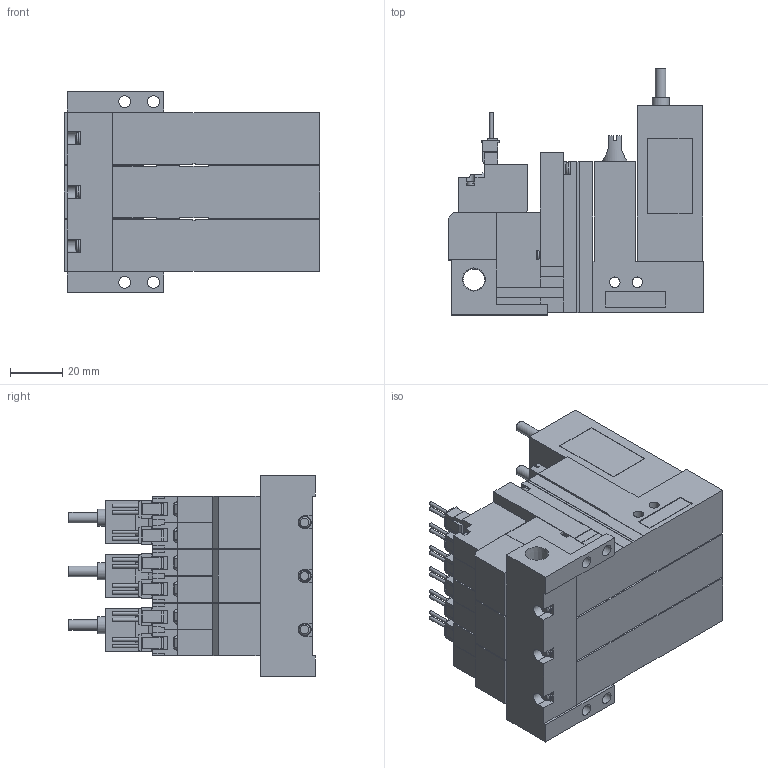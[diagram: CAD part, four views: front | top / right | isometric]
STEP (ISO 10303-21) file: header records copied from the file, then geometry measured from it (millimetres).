
FILE_DESCRIPTION(('STEP AP203'),'1');
FILE_NAME('VG_VGPLC5BLR303.stp','2025-02-18T23:18:04',(' '),(' '),'Spatial InterOp 3D',' ',' ');
FILE_SCHEMA(('CONFIG_CONTROL_DESIGN'));
Length unit declared in the file: millimetre
Products named in the file (5): BMC22M※※※※VG_VGPLC5BLR303; Solenoid valve B; Pressure sensor VGLC; Unit LC; Base MR30R
Assembly tree (10 placements, depth 2):
  BMC22M※※※※VG_VGPLC5BLR303
    Solenoid valve B  x3
    Pressure sensor VGLC  x3
    Unit LC  x3
    Base MR30R
Bounding box: 97.6 x 94 x 77 mm (x, y, z)
Volume: 338041.8 mm3; surface area: 87358.8 mm2
Topology: 10 solids, 10 shells, 1194 faces, 3200 edges, 2110 vertices
Faces by surface type: plane 1010, cylinder 146, cone 23, torus 15
Full cylindrical faces by diameter (mm): 1.4 x12, 2.5 x9, 3 x12, 3.5 x12, 3.6 x3, 4 x18, 4.134 x3, 4.5 x4, 5.2 x3, 6 x3, 6.5 x3, 6.6 x3, 8.279 x1
Entity records: 13727 total; most frequent: CARTESIAN_POINT 2587, ORIENTED_EDGE 2184, DIRECTION 2174, EDGE_CURVE 1092, LINE 906, VECTOR 906, VERTEX_POINT 756, AXIS2_PLACEMENT_3D 634
